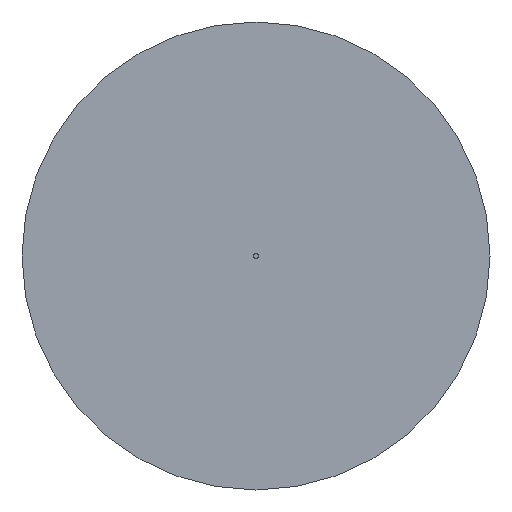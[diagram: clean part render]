
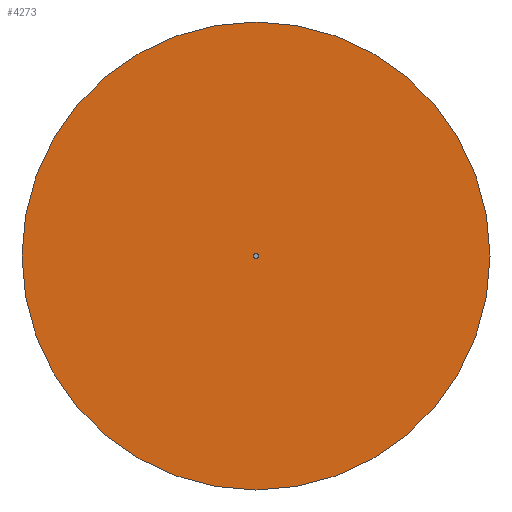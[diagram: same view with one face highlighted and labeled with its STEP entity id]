
A CAD part, front view. The second image highlights one B-rep face of the part: STEP entity #4273.
In plain terms, the highlighted planar face has unit normal (0, -1, 0).
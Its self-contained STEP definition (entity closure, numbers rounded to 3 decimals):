
#3029=CARTESIAN_POINT('',(50.0,-15.5,0.));
#3030=VERTEX_POINT('',#3029);
#3046=CARTESIAN_POINT('',(-50.0,-15.5,0.));
#3047=VERTEX_POINT('',#3046);
#3054=CARTESIAN_POINT('',(0.0,-15.5,0.));
#3055=DIRECTION('',(0.0,-1.0,0.0));
#3056=DIRECTION('',(1.0,0.0,0.0));
#3057=AXIS2_PLACEMENT_3D('',#3054,#3055,#3056);
#3058=CIRCLE('',#3057,50.0);
#3059=EDGE_CURVE('',#3030,#3047,#3058,.T.);
#3639=CARTESIAN_POINT('',(0.558,-15.5,0.));
#3640=VERTEX_POINT('',#3639);
#3655=CARTESIAN_POINT('',(-0.558,-15.5,0.));
#3656=VERTEX_POINT('',#3655);
#3663=CARTESIAN_POINT('',(0.0,-15.5,0.));
#3664=DIRECTION('',(0.0,-1.0,0.0));
#3665=DIRECTION('',(1.0,0.0,0.0));
#3666=AXIS2_PLACEMENT_3D('',#3663,#3664,#3665);
#3667=CIRCLE('',#3666,0.558);
#3668=EDGE_CURVE('',#3656,#3640,#3667,.T.);
#3887=CARTESIAN_POINT('',(0.0,-15.5,0.));
#3888=DIRECTION('',(0.0,-1.0,0.0));
#3889=DIRECTION('',(1.0,0.0,0.0));
#3890=AXIS2_PLACEMENT_3D('',#3887,#3888,#3889);
#3891=CIRCLE('',#3890,0.558);
#3892=EDGE_CURVE('',#3640,#3656,#3891,.T.);
#4248=CARTESIAN_POINT('',(0.0,-15.5,0.));
#4249=DIRECTION('',(0.0,-1.0,0.0));
#4250=DIRECTION('',(1.0,0.0,0.0));
#4251=AXIS2_PLACEMENT_3D('',#4248,#4249,#4250);
#4252=CIRCLE('',#4251,50.0);
#4253=EDGE_CURVE('',#3047,#3030,#4252,.T.);
#4260=CARTESIAN_POINT('',(25.279,-15.5,0.));
#4261=DIRECTION('',(0.0,-1.0,0.0));
#4262=DIRECTION('',(0.0,0.0,-1.0));
#4263=AXIS2_PLACEMENT_3D('',#4260,#4261,#4262);
#4264=PLANE('',#4263);
#4265=ORIENTED_EDGE('',*,*,#3059,.T.);
#4266=ORIENTED_EDGE('',*,*,#4253,.T.);
#4267=EDGE_LOOP('',(#4265,#4266));
#4268=FACE_OUTER_BOUND('',#4267,.T.);
#4269=ORIENTED_EDGE('',*,*,#3892,.F.);
#4270=ORIENTED_EDGE('',*,*,#3668,.F.);
#4271=EDGE_LOOP('',(#4269,#4270));
#4272=FACE_BOUND('',#4271,.T.);
#4273=ADVANCED_FACE('',(#4268,#4272),#4264,.T.);
